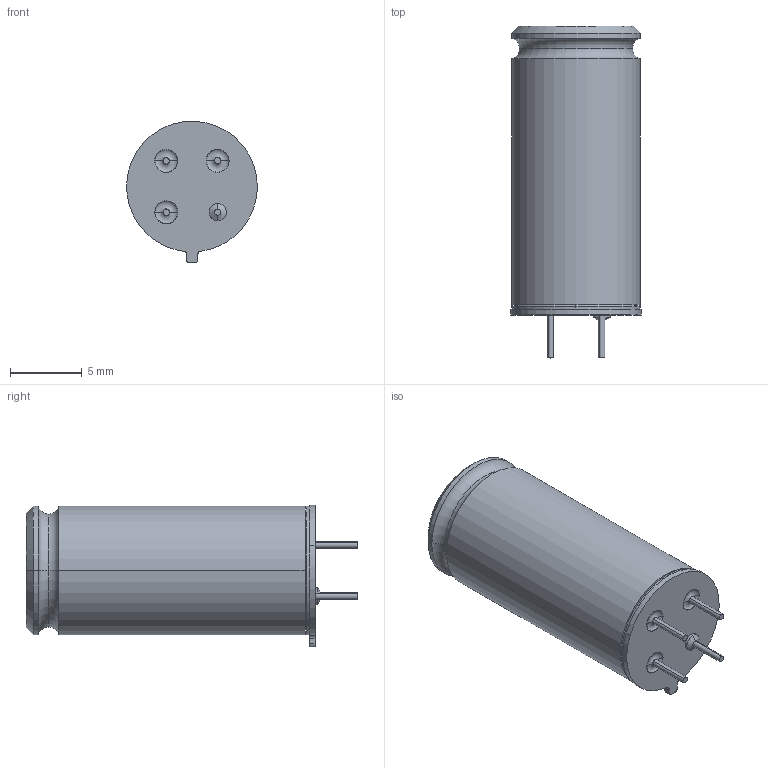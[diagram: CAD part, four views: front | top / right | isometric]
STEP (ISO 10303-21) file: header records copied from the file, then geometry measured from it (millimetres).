
FILE_DESCRIPTION((''),'2;1');
FILE_NAME('MLX90614XCI_-_ALTIUM_ASM','2019-02-08T',('jre'),(''),'PRO/ENGINEER BY PARAMETRIC TECHNOLOGY CORPORATION, 2010280','PRO/ENGINEER BY PARAMETRIC TECHNOLOGY CORPORATION, 2010280','');
FILE_SCHEMA(('CONFIG_CONTROL_DESIGN'));
Length unit declared in the file: millimetre
Products named in the file (15): PRT0033; PRT0034; PRT0035; PRT0036; PRT0037; PRT0038; PRT0039; PRT0040; PRT0041; PRT0042; ASM0004_ASM; MLX90614_DCH_DCI_HEADER_ASSY_-__ASM; MLX90614XCI_-_ALTIUM_ANY_ASM; _MLX90614XCI_-_ALTIUM; MLX90614XCI_-_ALTIUM_ASM
Assembly tree (18 placements, depth 5):
  MLX90614XCI_-_ALTIUM_ASM
    MLX90614XCI_-_ALTIUM_ANY_ASM
      PRT0033
      MLX90614_DCH_DCI_HEADER_ASSY_-__ASM
        PRT0034
        PRT0035
        PRT0036  x3
        PRT0037  x3
        PRT0038
        ASM0004_ASM
          PRT0039
          PRT0040
          PRT0041
          PRT0042
    _MLX90614XCI_-_ALTIUM
Bounding box: 9.13 x 23.2 x 9.9 mm (x, y, z)
Volume: 734.4 mm3; surface area: 1890 mm2
Topology: 14 solids, 14 shells, 280 faces, 630 edges, 394 vertices
Faces by surface type: cylinder 102, plane 96, cone 52, torus 28, revolution 2
Entity records: 7340 total; most frequent: DIRECTION 1409, CARTESIAN_POINT 1212, ORIENTED_EDGE 1112, AXIS2_PLACEMENT_3D 564, EDGE_CURVE 556, VERTEX_POINT 346, VECTOR 279, LINE 279
